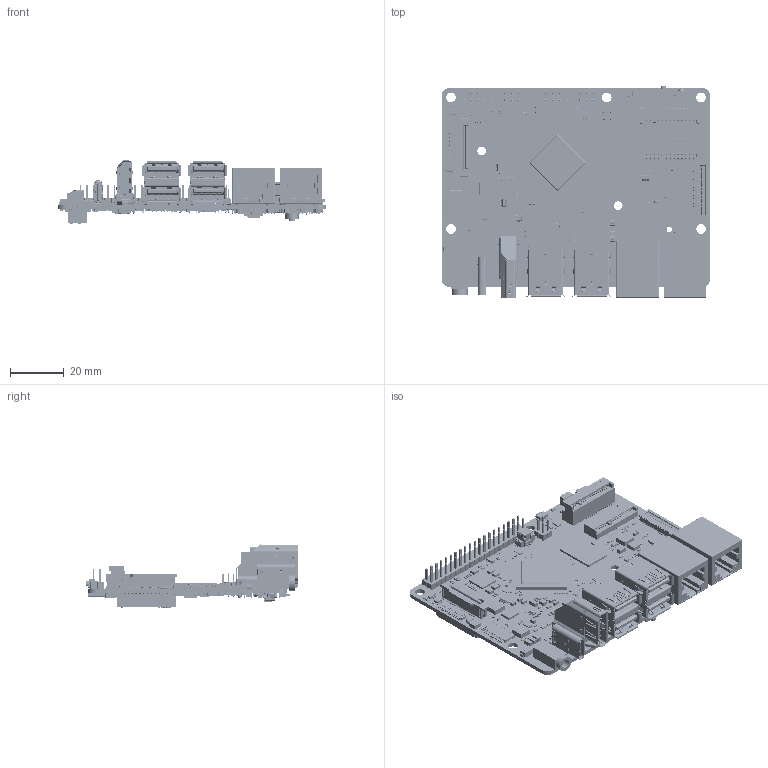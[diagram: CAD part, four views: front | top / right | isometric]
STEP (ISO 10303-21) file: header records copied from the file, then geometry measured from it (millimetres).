
FILE_DESCRIPTION((''),'2;1');
FILE_NAME('RS118P_ASM','2024-10-31T16:23:54',('admin'),(''),'CREO PARAMETRIC BY PTC INC, 2024273','CREO PARAMETRIC BY PTC INC, 2024273','');
FILE_SCHEMA(('CONFIG_CONTROL_DESIGN','SHAPE_APPEARANCE_LAYERS_GROUPS'));
Products named in the file (1033): RS118P_1_1; RS118P_1_2; RS118P_1_3; RS118P_1_4; RS118P_1_5; RS118P_1_6; RS118P_1_7; RS118P_1_8; RS118P_1_9; RS118P_1_10; RS118P_1_11; RS118P_1_12; RS118P_1_13; RS118P_1_14; RS118P_1_15; RS118P_1_16; RS118P_1_17; RS118P_1_18; RS118P_1_19; RS118P_1_20; RS118P_1_21; RS118P_1_22; RS118P_1_23; RS118P_1_24; RS118P_1_25; RS118P_1_26; RS118P_1_27; RS118P_1_28; RS118P_1_29; RS118P_1_30; RS118P_1_31; RS118P_1_32; RS118P_1_33; RS118P_1_34; RS118P_1_35; RS118P_1_36; RS118P_1_37; RS118P_1_38; RS118P_1_39; RS118P_1_40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
Assembly tree (1032 placements, depth 3):
  RS118P_ASM
    RS118P_1_ASM
      RS118P_1_1
      RS118P_1_2
      RS118P_1_3
      RS118P_1_4
      RS118P_1_5
      RS118P_1_6
      RS118P_1_7
      RS118P_1_8
      RS118P_1_9
      RS118P_1_10
      RS118P_1_11
      RS118P_1_12
      RS118P_1_13
      RS118P_1_14
      RS118P_1_15
      RS118P_1_16
      RS118P_1_17
      RS118P_1_18
      RS118P_1_19
      RS118P_1_20
      RS118P_1_21
      RS118P_1_22
      RS118P_1_23
      RS118P_1_24
      RS118P_1_25
      RS118P_1_26
      RS118P_1_27
      RS118P_1_28
      RS118P_1_29
      RS118P_1_30
      RS118P_1_31
      RS118P_1_32
      RS118P_1_33
      RS118P_1_34
      RS118P_1_35
      RS118P_1_36
      RS118P_1_37
      RS118P_1_38
      RS118P_1_39
      RS118P_1_40
      RS118P_1_41
      RS118P_1_42
      RS118P_1_43
      RS118P_1_44
      RS118P_1_45
      RS118P_1_46
      RS118P_1_47
      RS118P_1_48
      RS118P_1_49
      RS118P_1_50
      RS118P_1_51
      RS118P_1_52
      RS118P_1_53
      RS118P_1_54
      RS118P_1_55
      RS118P_1_56
      RS118P_1_57
      RS118P_1_58
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Bounding box: 100.19 x 78.97 x 23.48 mm (x, y, z)
Volume: 29886.9 mm3; surface area: 43560.2 mm2
Topology: 711 solids, 2294 shells, 38796 faces, 106154 edges, 68139 vertices
Faces by surface type: plane 23235, cylinder 12454, sphere 2593, bspline 164, torus 149, cone 93, extrusion 60, revolution 48
Entity records: 1264749 total; most frequent: CARTESIAN_POINT 236499, DIRECTION 208851, ORIENTED_EDGE 192767, EDGE_CURVE 103521, VECTOR 75703, LINE 75643, VERTEX_POINT 68137, AXIS2_PLACEMENT_3D 66550
